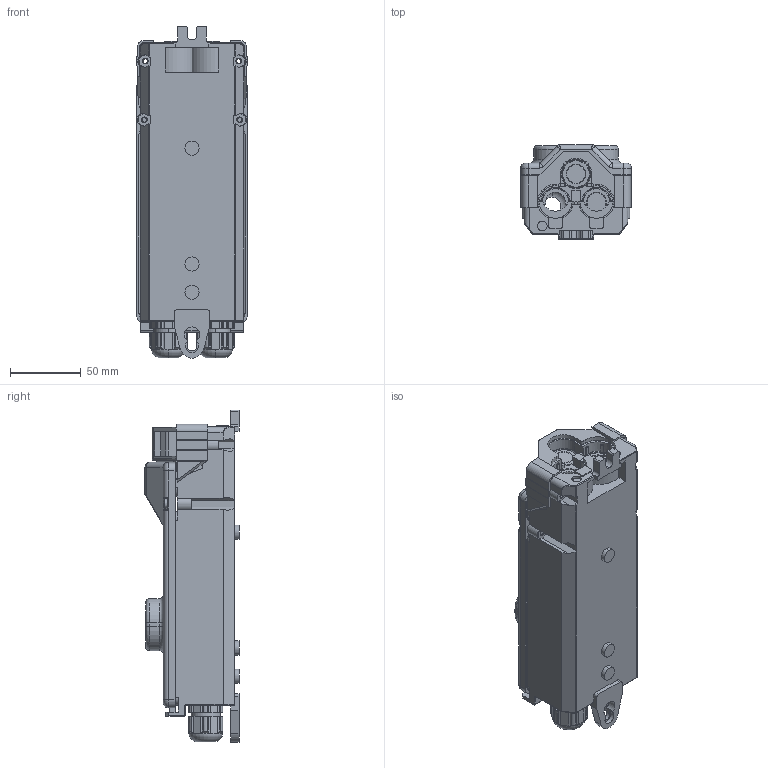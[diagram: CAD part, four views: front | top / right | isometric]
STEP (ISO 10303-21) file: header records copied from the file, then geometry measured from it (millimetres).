
FILE_DESCRIPTION (( 'STEP AP203' ), '1' );
FILE_NAME ('3D - HSW1195-M20 Außenkontur.STEP', '2019-07-10T14:20:55', ( '' ), ( '' ), 'SwSTEP 2.0', 'SolidWorks 2013', '' );
FILE_SCHEMA (( 'CONFIG_CONTROL_DESIGN' ));
Products named in the file (1): 3D - HSW1195-M20 Außenkontur
Bounding box: 78.4 x 66.5 x 234.82 mm (x, y, z)
Surface area: 82948.9 mm2 (no closed solid volume)
Topology: 0 solids, 33 shells, 1146 faces, 3670 edges, 2500 vertices
Faces by surface type: plane 627, cylinder 294, bspline 117, cone 59, torus 43, sphere 6
Entity records: 48189 total; most frequent: CARTESIAN_POINT 17323, ORIENTED_EDGE 6218, DIRECTION 5903, EDGE_CURVE 3664, VERTEX_POINT 2500, LINE 2353, VECTOR 2353, AXIS2_PLACEMENT_3D 1775
